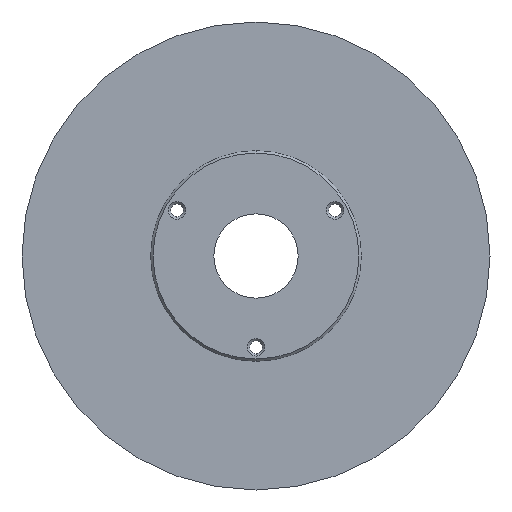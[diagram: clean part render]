
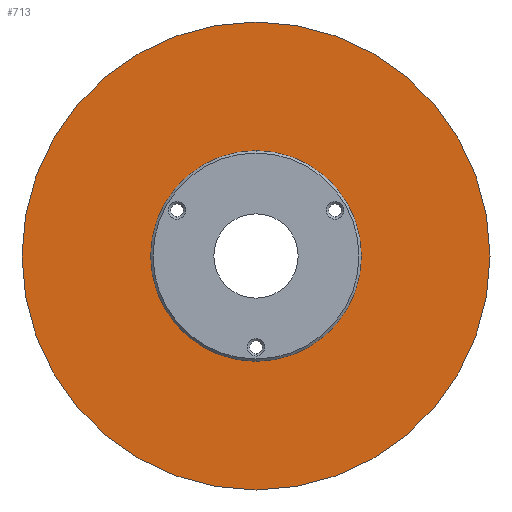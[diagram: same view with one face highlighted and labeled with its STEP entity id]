
A CAD part, front view. The second image highlights one B-rep face of the part: STEP entity #713.
In plain terms, the highlighted planar face has unit normal (0, -1, 0).
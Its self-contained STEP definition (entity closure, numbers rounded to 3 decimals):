
#6 = FACE_OUTER_BOUND ( 'NONE', #10, .T. ) ;
#10 = EDGE_LOOP ( 'NONE', ( #613, #1121 ) ) ;
#38 = ORIENTED_EDGE ( 'NONE', *, *, #289, .F. ) ;
#62 = CIRCLE ( 'NONE', #269, 100. ) ;
#123 = EDGE_CURVE ( 'NONE', #1059, #237, #1142, .T. ) ;
#178 = CARTESIAN_POINT ( 'NONE',  ( -45., 4., 0. ) ) ;
#210 = CARTESIAN_POINT ( 'NONE',  ( 0., 4., 0. ) ) ;
#224 = CARTESIAN_POINT ( 'NONE',  ( 0., 4., 100. ) ) ;
#237 = VERTEX_POINT ( 'NONE', #648 ) ;
#268 = CARTESIAN_POINT ( 'NONE',  ( 0., 4., -100. ) ) ;
#269 = AXIS2_PLACEMENT_3D ( 'NONE', #210, #327, #351 ) ;
#287 = DIRECTION ( 'NONE',  ( 0., 0., -1. ) ) ;
#289 = EDGE_CURVE ( 'NONE', #237, #1059, #1029, .T. ) ;
#327 = DIRECTION ( 'NONE',  ( 0., -1., 0. ) ) ;
#351 = DIRECTION ( 'NONE',  ( 0., 0., -1. ) ) ;
#353 = CARTESIAN_POINT ( 'NONE',  ( 0., 4., 0. ) ) ;
#397 = EDGE_LOOP ( 'NONE', ( #734, #38 ) ) ;
#402 = DIRECTION ( 'NONE',  ( 0., 1., 0. ) ) ;
#420 = EDGE_CURVE ( 'NONE', #1158, #1042, #1040, .T. ) ;
#462 = CARTESIAN_POINT ( 'NONE',  ( 0., 4., 0. ) ) ;
#539 = DIRECTION ( 'NONE',  ( 0., 0., -1. ) ) ;
#554 = DIRECTION ( 'NONE',  ( 0., -1., 0. ) ) ;
#555 = DIRECTION ( 'NONE',  ( 0., -1., 0. ) ) ;
#613 = ORIENTED_EDGE ( 'NONE', *, *, #420, .T. ) ;
#648 = CARTESIAN_POINT ( 'NONE',  ( 0., 4., 45. ) ) ;
#713 = ADVANCED_FACE ( 'NONE', ( #1002, #6 ), #718, .F. ) ;
#718 = PLANE ( 'NONE',  #781 ) ;
#734 = ORIENTED_EDGE ( 'NONE', *, *, #123, .F. ) ;
#781 = AXIS2_PLACEMENT_3D ( 'NONE', #178, #402, #1046 ) ;
#879 = AXIS2_PLACEMENT_3D ( 'NONE', #462, #554, #287 ) ;
#910 = EDGE_CURVE ( 'NONE', #1042, #1158, #62, .T. ) ;
#982 = CARTESIAN_POINT ( 'NONE',  ( 0., 4., 0. ) ) ;
#1002 = FACE_BOUND ( 'NONE', #397, .T. ) ;
#1009 = DIRECTION ( 'NONE',  ( 0., -1., 0. ) ) ;
#1011 = DIRECTION ( 'NONE',  ( 0., 0., -1. ) ) ;
#1029 = CIRCLE ( 'NONE', #1189, 45. ) ;
#1040 = CIRCLE ( 'NONE', #879, 100. ) ;
#1042 = VERTEX_POINT ( 'NONE', #224 ) ;
#1046 = DIRECTION ( 'NONE',  ( 0., 0., 1. ) ) ;
#1059 = VERTEX_POINT ( 'NONE', #1060 ) ;
#1060 = CARTESIAN_POINT ( 'NONE',  ( 0., 4., -45. ) ) ;
#1109 = AXIS2_PLACEMENT_3D ( 'NONE', #353, #555, #539 ) ;
#1121 = ORIENTED_EDGE ( 'NONE', *, *, #910, .T. ) ;
#1142 = CIRCLE ( 'NONE', #1109, 45. ) ;
#1158 = VERTEX_POINT ( 'NONE', #268 ) ;
#1189 = AXIS2_PLACEMENT_3D ( 'NONE', #982, #1009, #1011 ) ;
